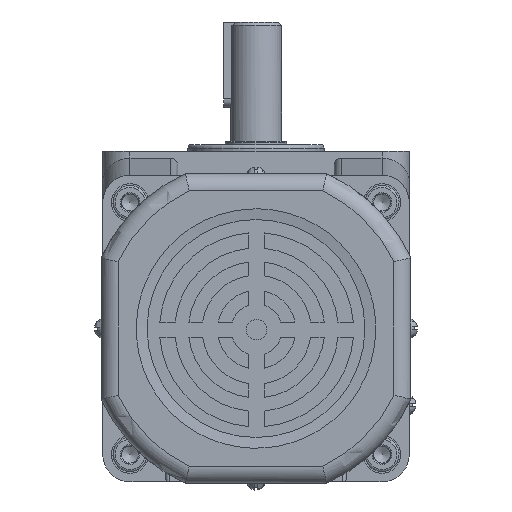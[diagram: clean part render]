
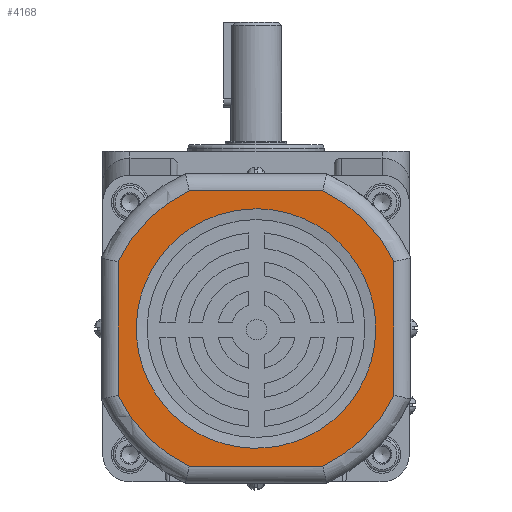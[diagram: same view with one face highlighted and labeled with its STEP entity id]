
A CAD part, front view. The second image highlights one B-rep face of the part: STEP entity #4168.
In plain terms, the highlighted planar face has unit normal (0, -1, 0).
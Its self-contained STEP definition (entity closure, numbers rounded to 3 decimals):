
#778=LINE('',#18514,#1651);
#780=LINE('',#18517,#1653);
#781=LINE('',#18519,#1654);
#784=LINE('',#18523,#1657);
#1651=VECTOR('',#14880,1.);
#1653=VECTOR('',#14884,1.);
#1654=VECTOR('',#14887,1.);
#1657=VECTOR('',#14892,1.);
#2529=B_SPLINE_CURVE_WITH_KNOTS('',3,(#18525,#18526,#18527,#18528,#18529,
#18530,#18531,#18532,#18533,#18534,#18535,#18536,#18537,#18538,#18539,#18540,
#18541,#18542,#18543,#18544,#18545,#18546,#18547,#18548,#18549,#18550,#18551,
#18552,#18553,#18554,#18555,#18556,#18557,#18558),.UNSPECIFIED.,.T.,.F.,
(2,2,2,2,2,2,2,2,2,2,2,2,2,2,2,2,2,2,2),(-0.063,0.,0.063,0.125,0.188,
0.25,0.313,0.375,0.438,0.5,0.563,0.625,0.688,0.75,0.813,0.875,0.938,
1.,1.063),.UNSPECIFIED.);
#4168=ADVANCED_FACE('',(#5344,#5345),#4911,.T.);
#4911=PLANE('',#13484);
#5344=FACE_BOUND('',#5688,.T.);
#5345=FACE_BOUND('',#5689,.T.);
#5688=EDGE_LOOP('',(#6705));
#5689=EDGE_LOOP('',(#6706,#6707,#6708,#6709,#6710,#6711,#6712,#6713));
#6705=ORIENTED_EDGE('',*,*,#11066,.F.);
#6706=ORIENTED_EDGE('',*,*,#11061,.T.);
#6707=ORIENTED_EDGE('',*,*,#11055,.T.);
#6708=ORIENTED_EDGE('',*,*,#11062,.T.);
#6709=ORIENTED_EDGE('',*,*,#11043,.T.);
#6710=ORIENTED_EDGE('',*,*,#11059,.T.);
#6711=ORIENTED_EDGE('',*,*,#11047,.T.);
#6712=ORIENTED_EDGE('',*,*,#11065,.T.);
#6713=ORIENTED_EDGE('',*,*,#11051,.T.);
#9943=VERTEX_POINT('',#18401);
#9945=VERTEX_POINT('',#18404);
#9947=VERTEX_POINT('',#18432);
#9949=VERTEX_POINT('',#18435);
#9951=VERTEX_POINT('',#18463);
#9953=VERTEX_POINT('',#18466);
#9955=VERTEX_POINT('',#18494);
#9957=VERTEX_POINT('',#18497);
#9959=VERTEX_POINT('',#18559);
#11043=EDGE_CURVE('',#9945,#9943,#12704,.T.);
#11047=EDGE_CURVE('',#9949,#9947,#12706,.T.);
#11051=EDGE_CURVE('',#9953,#9951,#12708,.T.);
#11055=EDGE_CURVE('',#9957,#9955,#12710,.T.);
#11059=EDGE_CURVE('',#9943,#9949,#778,.T.);
#11061=EDGE_CURVE('',#9951,#9957,#780,.T.);
#11062=EDGE_CURVE('',#9955,#9945,#781,.T.);
#11065=EDGE_CURVE('',#9947,#9953,#784,.T.);
#11066=EDGE_CURVE('',#9959,#9959,#2529,.T.);
#12704=CIRCLE('',#13468,45.);
#12706=CIRCLE('',#13471,45.);
#12708=CIRCLE('',#13474,45.);
#12710=CIRCLE('',#13477,45.);
#13468=AXIS2_PLACEMENT_3D('',#18403,#14855,#14856);
#13471=AXIS2_PLACEMENT_3D('',#18434,#14861,#14862);
#13474=AXIS2_PLACEMENT_3D('',#18465,#14867,#14868);
#13477=AXIS2_PLACEMENT_3D('',#18496,#14873,#14874);
#13484=AXIS2_PLACEMENT_3D('',#18560,#14895,#14896);
#14855=DIRECTION('',(0.,-1.,0.));
#14856=DIRECTION('',(0.,0.,1.));
#14861=DIRECTION('',(0.,-1.,0.));
#14862=DIRECTION('',(0.,0.,1.));
#14867=DIRECTION('',(0.,-1.,0.));
#14868=DIRECTION('',(0.,0.,1.));
#14873=DIRECTION('',(0.,-1.,0.));
#14874=DIRECTION('',(0.,0.,1.));
#14880=DIRECTION('',(-1.,0.,0.));
#14884=DIRECTION('',(1.,0.,0.));
#14887=DIRECTION('',(0.,0.,1.));
#14892=DIRECTION('',(0.,0.,-1.));
#14895=DIRECTION('',(0.,-1.,0.));
#14896=DIRECTION('',(0.,0.,1.));
#18401=CARTESIAN_POINT('',(19.615,-260.5,-11.5));
#18403=CARTESIAN_POINT('',(0.,-260.5,-52.));
#18404=CARTESIAN_POINT('',(40.5,-260.5,-32.385));
#18432=CARTESIAN_POINT('',(-40.5,-260.5,-32.385));
#18434=CARTESIAN_POINT('',(0.,-260.5,-52.));
#18435=CARTESIAN_POINT('',(-19.615,-260.5,-11.5));
#18463=CARTESIAN_POINT('',(-19.615,-260.5,-92.5));
#18465=CARTESIAN_POINT('',(0.,-260.5,-52.));
#18466=CARTESIAN_POINT('',(-40.5,-260.5,-71.615));
#18494=CARTESIAN_POINT('',(40.5,-260.5,-71.615));
#18496=CARTESIAN_POINT('',(0.,-260.5,-52.));
#18497=CARTESIAN_POINT('',(19.615,-260.5,-92.5));
#18514=CARTESIAN_POINT('',(-35.157,-260.5,-11.5));
#18517=CARTESIAN_POINT('',(-35.157,-260.5,-92.5));
#18519=CARTESIAN_POINT('',(40.5,-260.5,-52.));
#18523=CARTESIAN_POINT('',(-40.5,-260.5,-52.));
#18525=CARTESIAN_POINT('',(4.602,-260.5,-16.843));
#18526=CARTESIAN_POINT('',(-4.602,-260.5,-16.843));
#18527=CARTESIAN_POINT('',(-9.202,-260.5,-17.758));
#18528=CARTESIAN_POINT('',(-17.706,-260.5,-21.28));
#18529=CARTESIAN_POINT('',(-21.606,-260.5,-23.886));
#18530=CARTESIAN_POINT('',(-28.114,-260.5,-30.394));
#18531=CARTESIAN_POINT('',(-30.72,-260.5,-34.294));
#18532=CARTESIAN_POINT('',(-34.242,-260.5,-42.798));
#18533=CARTESIAN_POINT('',(-35.157,-260.5,-47.398));
#18534=CARTESIAN_POINT('',(-35.157,-260.5,-56.602));
#18535=CARTESIAN_POINT('',(-34.242,-260.5,-61.202));
#18536=CARTESIAN_POINT('',(-30.72,-260.5,-69.706));
#18537=CARTESIAN_POINT('',(-28.114,-260.5,-73.606));
#18538=CARTESIAN_POINT('',(-21.606,-260.5,-80.114));
#18539=CARTESIAN_POINT('',(-17.706,-260.5,-82.72));
#18540=CARTESIAN_POINT('',(-9.202,-260.5,-86.242));
#18541=CARTESIAN_POINT('',(-4.602,-260.5,-87.157));
#18542=CARTESIAN_POINT('',(4.602,-260.5,-87.157));
#18543=CARTESIAN_POINT('',(9.202,-260.5,-86.242));
#18544=CARTESIAN_POINT('',(17.706,-260.5,-82.72));
#18545=CARTESIAN_POINT('',(21.606,-260.5,-80.114));
#18546=CARTESIAN_POINT('',(28.114,-260.5,-73.606));
#18547=CARTESIAN_POINT('',(30.72,-260.5,-69.706));
#18548=CARTESIAN_POINT('',(34.242,-260.5,-61.202));
#18549=CARTESIAN_POINT('',(35.157,-260.5,-56.602));
#18550=CARTESIAN_POINT('',(35.157,-260.5,-47.398));
#18551=CARTESIAN_POINT('',(34.242,-260.5,-42.798));
#18552=CARTESIAN_POINT('',(30.72,-260.5,-34.294));
#18553=CARTESIAN_POINT('',(28.114,-260.5,-30.394));
#18554=CARTESIAN_POINT('',(21.606,-260.5,-23.886));
#18555=CARTESIAN_POINT('',(17.706,-260.5,-21.28));
#18556=CARTESIAN_POINT('',(9.202,-260.5,-17.758));
#18557=CARTESIAN_POINT('',(4.602,-260.5,-16.843));
#18558=CARTESIAN_POINT('',(-4.602,-260.5,-16.843));
#18559=CARTESIAN_POINT('',(0.,-260.5,-16.843));
#18560=CARTESIAN_POINT('',(-35.157,-260.5,-52.));
